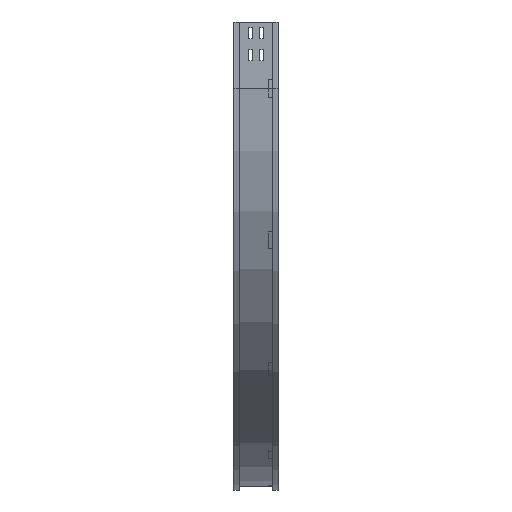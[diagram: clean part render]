
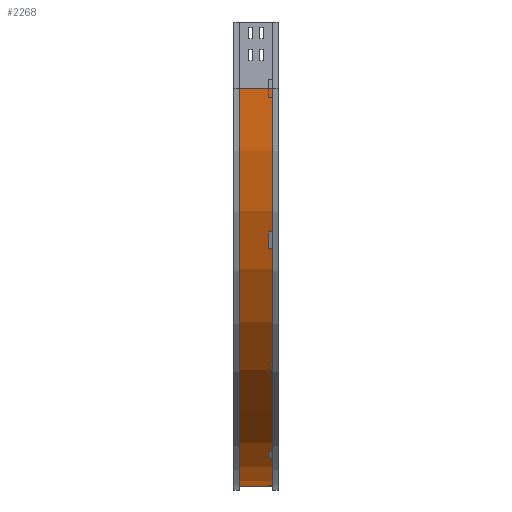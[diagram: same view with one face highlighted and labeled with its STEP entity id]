
A CAD part, left-side view. The second image highlights one B-rep face of the part: STEP entity #2268.
In plain terms, the highlighted cylindrical face has radius 900 mm (diameter 1800 mm), a partial arc.
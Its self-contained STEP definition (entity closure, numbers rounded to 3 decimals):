
#79 = CARTESIAN_POINT ( 'NONE',  ( 909., 0., -150. ) ) ;
#81 = VERTEX_POINT ( 'NONE', #4416 ) ;
#126 = DIRECTION ( 'NONE',  ( 0., -1., 0. ) ) ;
#361 = DIRECTION ( 'NONE',  ( 0., -1., 0. ) ) ;
#408 = VECTOR ( 'NONE', #1925, 1000. ) ;
#473 = DIRECTION ( 'NONE',  ( 0., -1., 0. ) ) ;
#645 = CARTESIAN_POINT ( 'NONE',  ( 909., 88., -1050. ) ) ;
#659 = VERTEX_POINT ( 'NONE', #645 ) ;
#876 = EDGE_CURVE ( 'NONE', #81, #659, #924, .T. ) ;
#924 = CIRCLE ( 'NONE', #1801, 900. ) ;
#963 = ORIENTED_EDGE ( 'NONE', *, *, #876, .T. ) ;
#1107 = EDGE_CURVE ( 'NONE', #1562, #4473, #4198, .T. ) ;
#1162 = CYLINDRICAL_SURFACE ( 'NONE', #2020, 900. ) ;
#1165 = EDGE_LOOP ( 'NONE', ( #3498, #4019, #963, #2995 ) ) ;
#1192 = CARTESIAN_POINT ( 'NONE',  ( 9., 12., -150. ) ) ;
#1229 = CARTESIAN_POINT ( 'NONE',  ( 909., 12., -1050. ) ) ;
#1292 = CARTESIAN_POINT ( 'NONE',  ( 9., 12., -150. ) ) ;
#1485 = DIRECTION ( 'NONE',  ( 0., 0., -1. ) ) ;
#1518 = VECTOR ( 'NONE', #473, 1000. ) ;
#1555 = DIRECTION ( 'NONE',  ( 0., -1., 0. ) ) ;
#1562 = VERTEX_POINT ( 'NONE', #1292 ) ;
#1567 = LINE ( 'NONE', #1192, #408 ) ;
#1801 = AXIS2_PLACEMENT_3D ( 'NONE', #3436, #361, #2007 ) ;
#1925 = DIRECTION ( 'NONE',  ( 0., -1., 0. ) ) ;
#2007 = DIRECTION ( 'NONE',  ( -1., 0., 0. ) ) ;
#2020 = AXIS2_PLACEMENT_3D ( 'NONE', #79, #1555, #1485 ) ;
#2210 = CARTESIAN_POINT ( 'NONE',  ( 909., 12., -150. ) ) ;
#2268 = ADVANCED_FACE ( 'NONE', ( #2559 ), #1162, .T. ) ;
#2559 = FACE_OUTER_BOUND ( 'NONE', #1165, .T. ) ;
#2821 = AXIS2_PLACEMENT_3D ( 'NONE', #2210, #126, #4079 ) ;
#2995 = ORIENTED_EDGE ( 'NONE', *, *, #3519, .T. ) ;
#3151 = EDGE_CURVE ( 'NONE', #81, #1562, #1567, .T. ) ;
#3436 = CARTESIAN_POINT ( 'NONE',  ( 909., 88., -150. ) ) ;
#3498 = ORIENTED_EDGE ( 'NONE', *, *, #1107, .F. ) ;
#3519 = EDGE_CURVE ( 'NONE', #659, #4473, #3971, .T. ) ;
#3971 = LINE ( 'NONE', #4242, #1518 ) ;
#4019 = ORIENTED_EDGE ( 'NONE', *, *, #3151, .F. ) ;
#4079 = DIRECTION ( 'NONE',  ( -1., 0., 0. ) ) ;
#4198 = CIRCLE ( 'NONE', #2821, 900. ) ;
#4242 = CARTESIAN_POINT ( 'NONE',  ( 909., 12., -1050. ) ) ;
#4416 = CARTESIAN_POINT ( 'NONE',  ( 9., 88., -150. ) ) ;
#4473 = VERTEX_POINT ( 'NONE', #1229 ) ;
